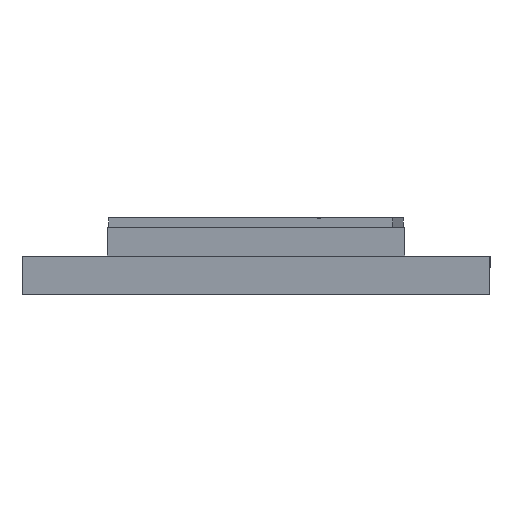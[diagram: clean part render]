
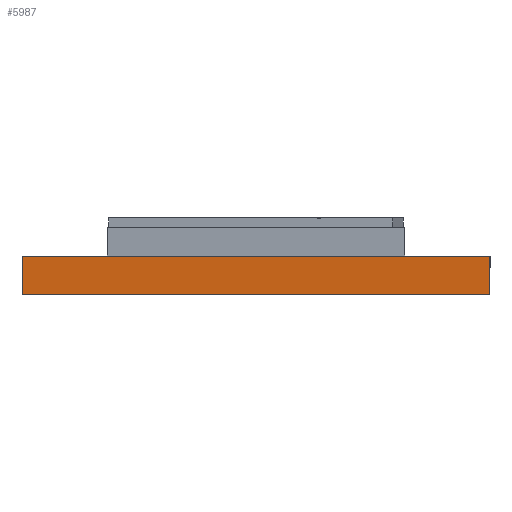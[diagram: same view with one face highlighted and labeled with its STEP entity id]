
A CAD part, left-side view. The second image highlights one B-rep face of the part: STEP entity #5987.
In plain terms, the highlighted planar face has unit normal (-0.99, 0.139, 0).
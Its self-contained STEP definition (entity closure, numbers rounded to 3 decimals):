
#274 = CARTESIAN_POINT ( 'NONE',  ( 3.518, 24.5, 4. ) ) ;
#332 = CARTESIAN_POINT ( 'NONE',  ( -3.439, -25., 4. ) ) ;
#540 = LINE ( 'NONE', #1120, #5259 ) ;
#590 = EDGE_CURVE ( 'NONE', #5722, #665, #8391, .T. ) ;
#665 = VERTEX_POINT ( 'NONE', #5544 ) ;
#1120 = CARTESIAN_POINT ( 'NONE',  ( -3.368, -24.5, 4. ) ) ;
#1137 = EDGE_LOOP ( 'NONE', ( #4978, #3062, #7333, #4933 ) ) ;
#2085 = PLANE ( 'NONE',  #6727 ) ;
#2315 = FACE_OUTER_BOUND ( 'NONE', #1137, .T. ) ;
#2335 = LINE ( 'NONE', #274, #2849 ) ;
#2849 = VECTOR ( 'NONE', #6670, 1000. ) ;
#3062 = ORIENTED_EDGE ( 'NONE', *, *, #5129, .T. ) ;
#3722 = DIRECTION ( 'NONE',  ( 0.139, 0.99, 0. ) ) ;
#4043 = VECTOR ( 'NONE', #9358, 1000. ) ;
#4574 = DIRECTION ( 'NONE',  ( 0., 0., 1. ) ) ;
#4793 = EDGE_CURVE ( 'NONE', #9324, #5722, #540, .T. ) ;
#4933 = ORIENTED_EDGE ( 'NONE', *, *, #4793, .T. ) ;
#4978 = ORIENTED_EDGE ( 'NONE', *, *, #590, .T. ) ;
#5039 = LINE ( 'NONE', #9485, #8642 ) ;
#5129 = EDGE_CURVE ( 'NONE', #665, #6552, #2335, .T. ) ;
#5259 = VECTOR ( 'NONE', #10101, 1000. ) ;
#5544 = CARTESIAN_POINT ( 'NONE',  ( 3.518, 24.5, 4. ) ) ;
#5722 = VERTEX_POINT ( 'NONE', #9095 ) ;
#5987 = ADVANCED_FACE ( 'NONE', ( #2315 ), #2085, .T. ) ;
#6552 = VERTEX_POINT ( 'NONE', #10376 ) ;
#6670 = DIRECTION ( 'NONE',  ( 0., 0., -1. ) ) ;
#6727 = AXIS2_PLACEMENT_3D ( 'NONE', #10184, #8649, #4574 ) ;
#7333 = ORIENTED_EDGE ( 'NONE', *, *, #9808, .F. ) ;
#8391 = LINE ( 'NONE', #332, #4043 ) ;
#8642 = VECTOR ( 'NONE', #3722, 1000. ) ;
#8649 = DIRECTION ( 'NONE',  ( -0.99, 0.139, 0. ) ) ;
#8970 = CARTESIAN_POINT ( 'NONE',  ( -3.368, -24.5, 0. ) ) ;
#9095 = CARTESIAN_POINT ( 'NONE',  ( -3.368, -24.5, 4. ) ) ;
#9324 = VERTEX_POINT ( 'NONE', #8970 ) ;
#9358 = DIRECTION ( 'NONE',  ( 0.139, 0.99, 0. ) ) ;
#9485 = CARTESIAN_POINT ( 'NONE',  ( -3.439, -25., 0. ) ) ;
#9808 = EDGE_CURVE ( 'NONE', #9324, #6552, #5039, .T. ) ;
#10101 = DIRECTION ( 'NONE',  ( 0., 0., 1. ) ) ;
#10184 = CARTESIAN_POINT ( 'NONE',  ( -3.439, -25., 4. ) ) ;
#10376 = CARTESIAN_POINT ( 'NONE',  ( 3.518, 24.5, 0. ) ) ;
